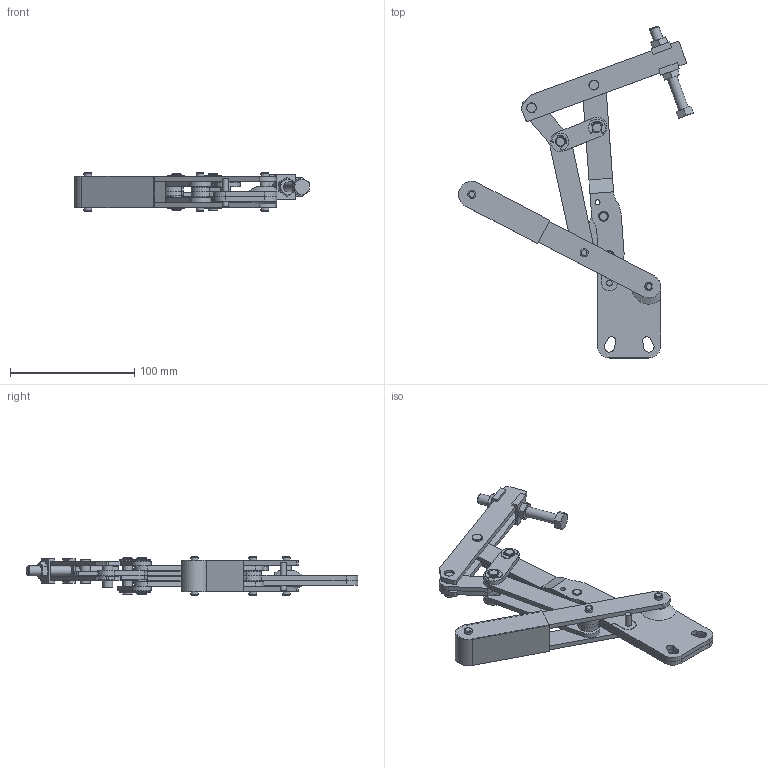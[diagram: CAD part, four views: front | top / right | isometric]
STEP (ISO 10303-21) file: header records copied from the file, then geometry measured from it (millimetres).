
FILE_DESCRIPTION((' '),'2;1');
FILE_NAME('C:\Users\Nick\Desktop\Knu-Vise WIP\DTV-Series\DTS-400\3D\DTS-400 Open.stp','2015-08-18T10:47:48',(' '),(' '),' ','ACIS',' ');
FILE_SCHEMA(('CONFIG_CONTROL_DESIGN'));
Length unit declared in the file: inch
Products named in the file (35): C:\Users\Nick\Desktop\Knu-Vise WIP\DTV-Series\DTS-400\3D\DTS-400 Open.stp; Body1; Body2; Body3; Body4; Body5; Body6; Body7; Body8; Body9; Body10; Body11; Body12; Body13; Body14; Body15; Body16; Body17; Body18; Body19; Body20; Body21; Body22; Body23; Body24; Body25; Body26; Body27; Body28; Body29; Body30; Component32; Component33; Component34; Component35
Assembly tree (36 placements, depth 2):
  C:\Users\Nick\Desktop\Knu-Vise WIP\DTV-Series\DTS-400\3D\DTS-400 Open.stp
    Body1
    Body2
    Body3
    Body4
    Body5
    Body6
    Body7
    Body8
    Body9
    Body10
    Body11
    Body12
    Body13
    Body14
    Body15
    Body16
    Body17
    Body18
    Body19
    Body20
    Body21
    Body22
    Body23
    Body24
    Body25
    Body26
    Body27
    Body28
    Body29
    Body30
    Component32  x3
    Component33
    Component34
    Component35
Bounding box: 189.07 x 267.2 x 30.96 mm (x, y, z)
Volume: 144490.3 mm3; surface area: 107123.2 mm2
Topology: 36 solids, 36 shells, 526 faces, 1259 edges, 825 vertices
Faces by surface type: plane 252, cylinder 209, cone 47, torus 18
Full cylindrical faces by diameter (mm): 3.962 x2, 4.75 x2, 4.775 x1, 6.248 x6, 6.274 x4, 6.299 x4, 6.35 x4, 6.401 x2, 6.452 x6, 7.823 x5, 7.849 x6, 7.925 x4, 7.937 x3, 7.95 x4, 7.976 x4, 8.001 x2, 8.012 x2, 8.026 x12, 8.331 x2
Entity records: 19464 total; most frequent: DIRECTION 2660, CARTESIAN_POINT 2611, ORIENTED_EDGE 2190, EDGE_CURVE 1095, AXIS2_PLACEMENT_3D 1056, VERTEX_POINT 779, EDGE_LOOP 728, VECTOR 548
